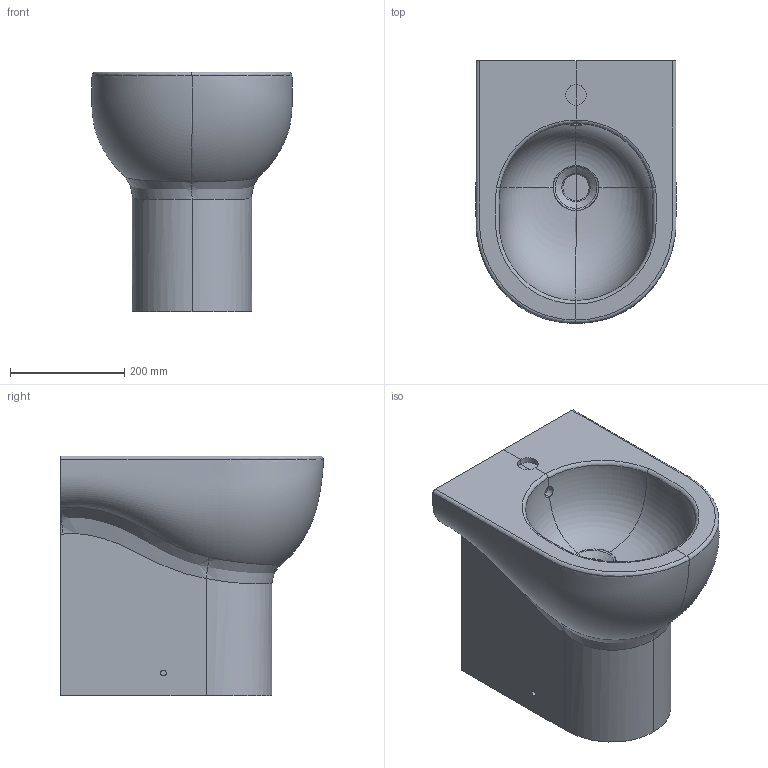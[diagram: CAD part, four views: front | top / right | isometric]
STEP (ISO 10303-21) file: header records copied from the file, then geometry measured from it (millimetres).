
FILE_DESCRIPTION (( 'STEP AP203' ), '1' );
FILE_NAME ('NUBIT004600M.STEP', '2019-05-27T14:41:13', ( '' ), ( '' ), 'SwSTEP 2.0', 'SolidWorks 2019', '' );
FILE_SCHEMA (( 'CONFIG_CONTROL_DESIGN' ));
Products named in the file (1): NUBIT004600M
Bounding box: 350.43 x 459.93 x 420 mm (x, y, z)
Volume: 33275476.8 mm3; surface area: 828284.2 mm2
Topology: 1 solids, 1 shells, 67 faces, 147 edges, 84 vertices
Faces by surface type: bspline 22, plane 22, cylinder 17, torus 4, cone 2
Entity records: 146792 total; most frequent: CARTESIAN_POINT 145467, ORIENTED_EDGE 294, DIRECTION 199, EDGE_CURVE 147, AXIS2_PLACEMENT_3D 86, VERTEX_POINT 84, B_SPLINE_CURVE_WITH_KNOTS 80, EDGE_LOOP 69
